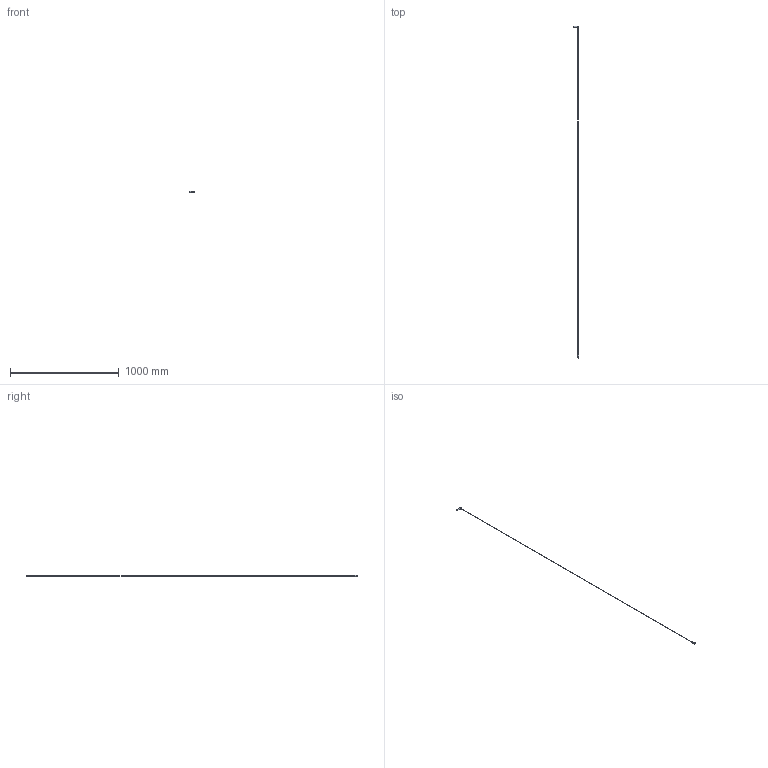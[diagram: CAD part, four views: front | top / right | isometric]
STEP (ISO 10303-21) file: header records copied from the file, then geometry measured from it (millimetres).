
FILE_DESCRIPTION( ( 'STEP AP214' ), '1' );
FILE_NAME( 'L:/99_users/sasakiyu/3Dモデル/型開き計測センサ/MEL1002G-L/MEL1002G_L.step', '2019-07-12T04:49:00', ( ' ' ), ( ' ' ), 'XStep 1.0', ' ', ' ' );
FILE_SCHEMA( ( 'automotive_design' ) );
Length unit declared in the file: millimetre
Products named in the file (1): 1
Bounding box: 54.25 x 3056 x 15.5 mm (x, y, z)
Volume: 24427.6 mm3; surface area: 32224.7 mm2
Topology: 1 solids, 1 shells, 56 faces, 126 edges, 82 vertices
Faces by surface type: plane 30, cylinder 16, cone 8, torus 1, sphere 1
Full cylindrical faces by diameter (mm): 3 x1, 4 x1, 6 x1, 9 x1, 10 x2, 11 x1, 12 x2, 13 x1, 15.49 x1
Entity records: 1941 total; most frequent: CARTESIAN_POINT 348, DIRECTION 247, ORIENTED_EDGE 190, AXIS2_PLACEMENT_3D 107, EDGE_CURVE 95, EDGE_LOOP 87, VERTEX_POINT 72, FACE_OUTER_BOUND 68
